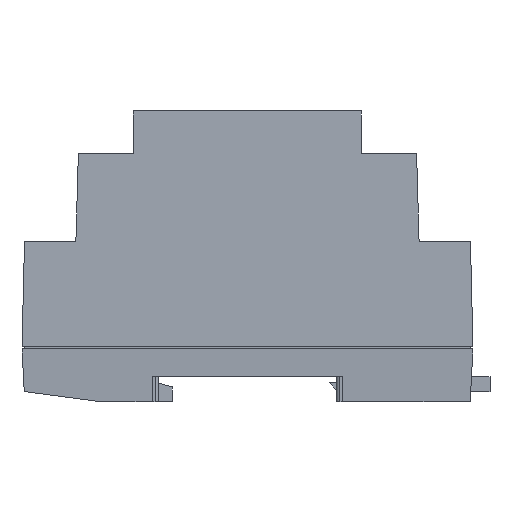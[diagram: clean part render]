
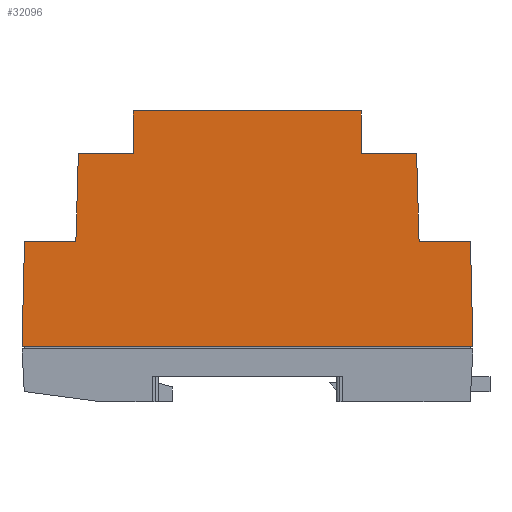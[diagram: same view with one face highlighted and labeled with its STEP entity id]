
A CAD part, left-side view. The second image highlights one B-rep face of the part: STEP entity #32096.
In plain terms, the highlighted planar face has unit normal (-1, 0, 0) as drawn and (0, 0, 1) by its records, which use the part's own axes.
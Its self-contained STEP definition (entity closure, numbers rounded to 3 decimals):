
#836 = CARTESIAN_POINT ( 'NONE',  ( -22.75, 47., 0. ) ) ;
#2565 = EDGE_CURVE ( 'NONE', #61226, #15816, #36832, .T. ) ;
#4012 = CARTESIAN_POINT ( 'NONE',  ( -45., 0., 0. ) ) ;
#4157 = CARTESIAN_POINT ( 'NONE',  ( -22.75, 38.5, 0. ) ) ;
#4336 = VERTEX_POINT ( 'NONE', #6789 ) ;
#4921 = VECTOR ( 'NONE', #9049, 1000. ) ;
#5879 = ORIENTED_EDGE ( 'NONE', *, *, #65112, .F. ) ;
#6789 = CARTESIAN_POINT ( 'NONE',  ( 22.75, 38.5, 0. ) ) ;
#6851 = DIRECTION ( 'NONE',  ( 0.029, 1., 0. ) ) ;
#7317 = PLANE ( 'NONE',  #10908 ) ;
#8014 = DIRECTION ( 'NONE',  ( -1., 0., 0. ) ) ;
#8566 = ORIENTED_EDGE ( 'NONE', *, *, #9077, .F. ) ;
#9049 = DIRECTION ( 'NONE',  ( -0.024, 1., 0. ) ) ;
#9077 = EDGE_CURVE ( 'NONE', #22793, #48659, #20106, .T. ) ;
#9383 = VECTOR ( 'NONE', #39356, 1000. ) ;
#9543 = CARTESIAN_POINT ( 'NONE',  ( -22.75, 38.5, 0. ) ) ;
#10307 = CARTESIAN_POINT ( 'NONE',  ( 33.75, 38.5, 0. ) ) ;
#10387 = DIRECTION ( 'NONE',  ( 0.024, 1., 0. ) ) ;
#10793 = LINE ( 'NONE', #64083, #62733 ) ;
#10889 = CARTESIAN_POINT ( 'NONE',  ( 0., 0., 0. ) ) ;
#10908 = AXIS2_PLACEMENT_3D ( 'NONE', #58132, #17148, #26741 ) ;
#11556 = VERTEX_POINT ( 'NONE', #836 ) ;
#12381 = ORIENTED_EDGE ( 'NONE', *, *, #34475, .T. ) ;
#13447 = CARTESIAN_POINT ( 'NONE',  ( 34.25, 21., 0. ) ) ;
#14434 = CARTESIAN_POINT ( 'NONE',  ( 34.25, 21., 0. ) ) ;
#15292 = CARTESIAN_POINT ( 'NONE',  ( -34.25, 21., 0. ) ) ;
#15510 = VECTOR ( 'NONE', #6851, 1000. ) ;
#15538 = DIRECTION ( 'NONE',  ( -0.029, 1., 0. ) ) ;
#15816 = VERTEX_POINT ( 'NONE', #32804 ) ;
#17148 = DIRECTION ( 'NONE',  ( 0., 0., -1. ) ) ;
#17328 = ORIENTED_EDGE ( 'NONE', *, *, #43073, .T. ) ;
#17769 = VECTOR ( 'NONE', #8014, 1000. ) ;
#17790 = LINE ( 'NONE', #14434, #57939 ) ;
#17803 = VERTEX_POINT ( 'NONE', #49882 ) ;
#17833 = EDGE_CURVE ( 'NONE', #61699, #58556, #61405, .T. ) ;
#18406 = ORIENTED_EDGE ( 'NONE', *, *, #58296, .F. ) ;
#20106 = LINE ( 'NONE', #45919, #58639 ) ;
#21062 = DIRECTION ( 'NONE',  ( 1., 0., 0. ) ) ;
#21788 = VECTOR ( 'NONE', #21062, 1000. ) ;
#22793 = VERTEX_POINT ( 'NONE', #59417 ) ;
#22884 = VECTOR ( 'NONE', #45677, 1000. ) ;
#25292 = EDGE_CURVE ( 'NONE', #4336, #17803, #27132, .T. ) ;
#25833 = DIRECTION ( 'NONE',  ( 1., 0., 0. ) ) ;
#26741 = DIRECTION ( 'NONE',  ( -1., 0., 0. ) ) ;
#27012 = VERTEX_POINT ( 'NONE', #50401 ) ;
#27132 = LINE ( 'NONE', #31827, #49224 ) ;
#27743 = ORIENTED_EDGE ( 'NONE', *, *, #57921, .F. ) ;
#28771 = CARTESIAN_POINT ( 'NONE',  ( 44.5, 21., 0. ) ) ;
#28881 = EDGE_CURVE ( 'NONE', #50908, #63600, #48916, .T. ) ;
#28940 = LINE ( 'NONE', #47091, #15510 ) ;
#29295 = DIRECTION ( 'NONE',  ( 0., 1., 0. ) ) ;
#29761 = EDGE_CURVE ( 'NONE', #15816, #61699, #43701, .T. ) ;
#30523 = CARTESIAN_POINT ( 'NONE',  ( -45., 0., 0. ) ) ;
#31827 = CARTESIAN_POINT ( 'NONE',  ( 22.75, 38.5, 0. ) ) ;
#32096 = ADVANCED_FACE ( 'NONE', ( #35597 ), #7317, .F. ) ;
#32574 = ORIENTED_EDGE ( 'NONE', *, *, #28881, .F. ) ;
#32804 = CARTESIAN_POINT ( 'NONE',  ( 45., 0., 0. ) ) ;
#32852 = VECTOR ( 'NONE', #10387, 1000. ) ;
#34426 = LINE ( 'NONE', #30523, #32852 ) ;
#34475 = EDGE_CURVE ( 'NONE', #58556, #27012, #17790, .T. ) ;
#35597 = FACE_OUTER_BOUND ( 'NONE', #52850, .T. ) ;
#36832 = LINE ( 'NONE', #10889, #21788 ) ;
#39356 = DIRECTION ( 'NONE',  ( 0., 1., 0. ) ) ;
#42314 = EDGE_CURVE ( 'NONE', #17803, #11556, #10793, .T. ) ;
#42670 = CARTESIAN_POINT ( 'NONE',  ( -44.5, 21., 0. ) ) ;
#43073 = EDGE_CURVE ( 'NONE', #27012, #4336, #57924, .T. ) ;
#43701 = LINE ( 'NONE', #45660, #4921 ) ;
#44601 = CARTESIAN_POINT ( 'NONE',  ( -44.5, 21., 0. ) ) ;
#44830 = CARTESIAN_POINT ( 'NONE',  ( 44.5, 21., 0. ) ) ;
#45273 = ORIENTED_EDGE ( 'NONE', *, *, #25292, .T. ) ;
#45660 = CARTESIAN_POINT ( 'NONE',  ( 45., 0., 0. ) ) ;
#45677 = DIRECTION ( 'NONE',  ( -1., 0., 0. ) ) ;
#45919 = CARTESIAN_POINT ( 'NONE',  ( -33.75, 38.5, 0. ) ) ;
#47091 = CARTESIAN_POINT ( 'NONE',  ( -34.25, 21., 0. ) ) ;
#48237 = ORIENTED_EDGE ( 'NONE', *, *, #17833, .T. ) ;
#48659 = VERTEX_POINT ( 'NONE', #9543 ) ;
#48916 = LINE ( 'NONE', #42670, #60604 ) ;
#49069 = DIRECTION ( 'NONE',  ( -1., 0., 0. ) ) ;
#49224 = VECTOR ( 'NONE', #29295, 1000. ) ;
#49712 = LINE ( 'NONE', #4157, #9383 ) ;
#49882 = CARTESIAN_POINT ( 'NONE',  ( 22.75, 47., 0. ) ) ;
#50401 = CARTESIAN_POINT ( 'NONE',  ( 33.75, 38.5, 0. ) ) ;
#50908 = VERTEX_POINT ( 'NONE', #44601 ) ;
#52850 = EDGE_LOOP ( 'NONE', ( #57978, #5879, #8566, #27743, #32574, #18406, #53562, #62235, #48237, #12381, #17328, #45273 ) ) ;
#53562 = ORIENTED_EDGE ( 'NONE', *, *, #2565, .T. ) ;
#57921 = EDGE_CURVE ( 'NONE', #63600, #22793, #28940, .T. ) ;
#57924 = LINE ( 'NONE', #10307, #17769 ) ;
#57939 = VECTOR ( 'NONE', #15538, 1000. ) ;
#57978 = ORIENTED_EDGE ( 'NONE', *, *, #42314, .T. ) ;
#58132 = CARTESIAN_POINT ( 'NONE',  ( 0., 47., 0. ) ) ;
#58296 = EDGE_CURVE ( 'NONE', #61226, #50908, #34426, .T. ) ;
#58556 = VERTEX_POINT ( 'NONE', #13447 ) ;
#58639 = VECTOR ( 'NONE', #25833, 1000. ) ;
#59417 = CARTESIAN_POINT ( 'NONE',  ( -33.75, 38.5, 0. ) ) ;
#60604 = VECTOR ( 'NONE', #60904, 1000. ) ;
#60904 = DIRECTION ( 'NONE',  ( 1., 0., 0. ) ) ;
#61226 = VERTEX_POINT ( 'NONE', #4012 ) ;
#61405 = LINE ( 'NONE', #44830, #22884 ) ;
#61699 = VERTEX_POINT ( 'NONE', #28771 ) ;
#62235 = ORIENTED_EDGE ( 'NONE', *, *, #29761, .T. ) ;
#62733 = VECTOR ( 'NONE', #49069, 1000. ) ;
#63600 = VERTEX_POINT ( 'NONE', #15292 ) ;
#64083 = CARTESIAN_POINT ( 'NONE',  ( 0., 47., 0. ) ) ;
#65112 = EDGE_CURVE ( 'NONE', #48659, #11556, #49712, .T. ) ;
